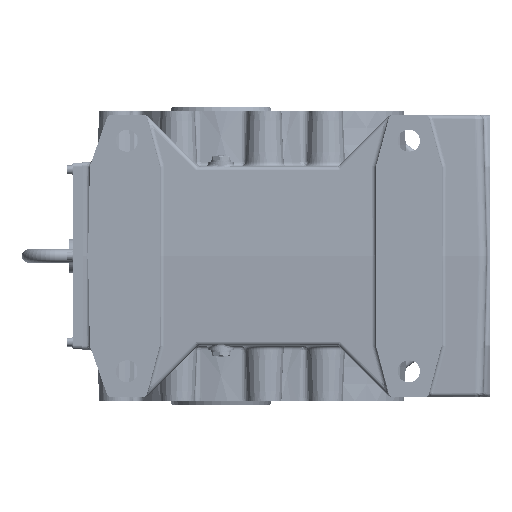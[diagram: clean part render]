
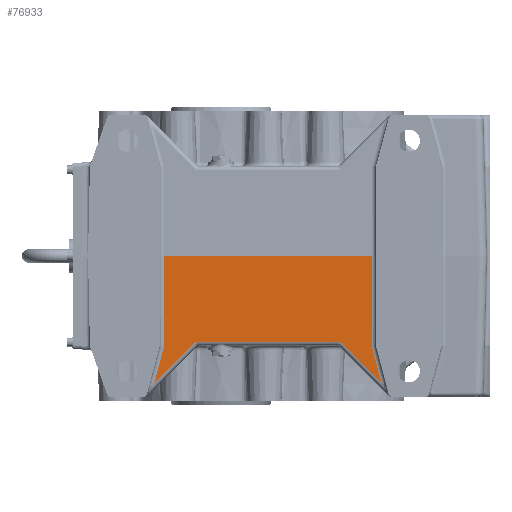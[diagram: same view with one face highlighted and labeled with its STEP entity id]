
A CAD part, left-side view. The second image highlights one B-rep face of the part: STEP entity #76933.
In plain terms, the highlighted planar face has unit normal (-1, 0, -0.026).
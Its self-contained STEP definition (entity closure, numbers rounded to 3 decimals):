
#52542=CARTESIAN_POINT('',(-192.128,-139.571,-100.131));
#52543=VERTEX_POINT('',#52542);
#52551=CARTESIAN_POINT('',(-192.128,29.571,-100.131));
#52552=VERTEX_POINT('',#52551);
#52553=CARTESIAN_POINT('',(-192.128,-139.571,-100.131));
#52554=DIRECTION('',(0.0,1.0,0.0));
#52555=VECTOR('',#52554,169.142);
#52556=LINE('',#52553,#52555);
#52557=EDGE_CURVE('',#52543,#52552,#52556,.T.);
#58937=CARTESIAN_POINT('',(-191.986,66.5,-105.524));
#58938=VERTEX_POINT('',#58937);
#58963=CARTESIAN_POINT('',(-194.75,66.5,0.0));
#58964=VERTEX_POINT('',#58963);
#58965=CARTESIAN_POINT('',(-191.986,66.5,-105.524));
#58966=DIRECTION('',(-0.026,0.0,1.));
#58967=VECTOR('',#58966,105.561);
#58968=LINE('',#58965,#58967);
#58969=EDGE_CURVE('',#58938,#58964,#58968,.T.);
#58996=CARTESIAN_POINT('',(-190.86,77.967,-148.527));
#58997=VERTEX_POINT('',#58996);
#59005=CARTESIAN_POINT('',(-190.86,77.967,-148.527));
#59006=DIRECTION('',(-0.025,-0.258,0.966));
#59007=VECTOR('',#59006,44.52);
#59008=LINE('',#59005,#59007);
#59009=EDGE_CURVE('',#58997,#58938,#59008,.T.);
#59463=CARTESIAN_POINT('',(-191.986,-176.5,-105.524));
#59464=VERTEX_POINT('',#59463);
#59558=CARTESIAN_POINT('',(-190.86,-187.967,-148.527));
#59559=VERTEX_POINT('',#59558);
#59560=CARTESIAN_POINT('',(-191.986,-176.5,-105.524));
#59561=DIRECTION('',(0.025,-0.258,-0.966));
#59562=VECTOR('',#59561,44.52);
#59563=LINE('',#59560,#59562);
#59564=EDGE_CURVE('',#59464,#59559,#59563,.T.);
#61006=CARTESIAN_POINT('',(-194.75,-176.5,0.0));
#61007=VERTEX_POINT('',#61006);
#61015=CARTESIAN_POINT('',(-194.75,-176.5,0.));
#61016=DIRECTION('',(0.026,0.0,-1.));
#61017=VECTOR('',#61016,105.561);
#61018=LINE('',#61015,#61017);
#61019=EDGE_CURVE('',#61007,#59464,#61018,.T.);
#62976=CARTESIAN_POINT('',(-190.86,-187.967,-148.527));
#62977=DIRECTION('',(-0.019,0.707,0.707));
#62978=VECTOR('',#62977,68.455);
#62979=LINE('',#62976,#62978);
#62980=EDGE_CURVE('',#59559,#52543,#62979,.T.);
#63153=CARTESIAN_POINT('',(-192.128,29.571,-100.131));
#63154=DIRECTION('',(0.019,0.707,-0.707));
#63155=VECTOR('',#63154,68.455);
#63156=LINE('',#63153,#63155);
#63157=EDGE_CURVE('',#52552,#58997,#63156,.T.);
#76887=CARTESIAN_POINT('',(-194.75,66.5,0.0));
#76888=DIRECTION('',(0.0,-1.0,0.0));
#76889=VECTOR('',#76888,243.0);
#76890=LINE('',#76887,#76889);
#76891=EDGE_CURVE('',#58964,#61007,#76890,.T.);
#76918=CARTESIAN_POINT('',(-194.749,-307.0,-0.036));
#76919=DIRECTION('',(1.,0.,0.026));
#76920=DIRECTION('',(0.026,0.,-1.));
#76921=AXIS2_PLACEMENT_3D('',#76918,#76919,#76920);
#76922=PLANE('',#76921);
#76923=ORIENTED_EDGE('',*,*,#59009,.F.);
#76924=ORIENTED_EDGE('',*,*,#63157,.F.);
#76925=ORIENTED_EDGE('',*,*,#52557,.F.);
#76926=ORIENTED_EDGE('',*,*,#62980,.F.);
#76927=ORIENTED_EDGE('',*,*,#59564,.F.);
#76928=ORIENTED_EDGE('',*,*,#61019,.F.);
#76929=ORIENTED_EDGE('',*,*,#76891,.F.);
#76930=ORIENTED_EDGE('',*,*,#58969,.F.);
#76931=EDGE_LOOP('',(#76923,#76924,#76925,#76926,#76927,#76928,#76929,#76930));
#76932=FACE_OUTER_BOUND('',#76931,.T.);
#76933=ADVANCED_FACE('',(#76932),#76922,.F.);
